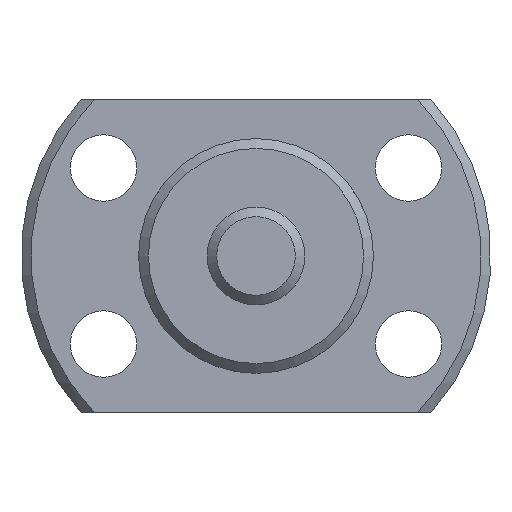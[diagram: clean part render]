
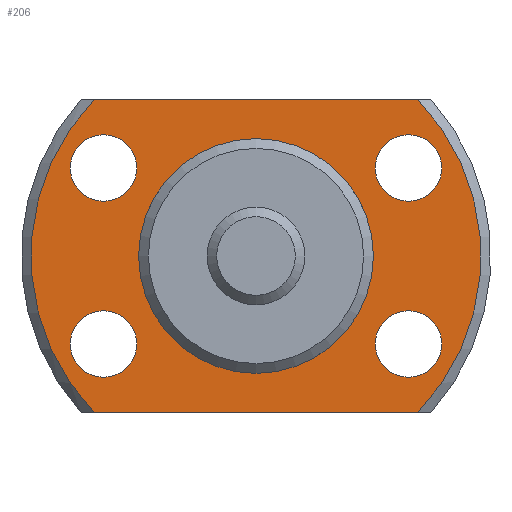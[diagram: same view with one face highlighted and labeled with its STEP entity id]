
A CAD part, left-side view. The second image highlights one B-rep face of the part: STEP entity #206.
In plain terms, the highlighted planar face has unit normal (-1, 0, 0).
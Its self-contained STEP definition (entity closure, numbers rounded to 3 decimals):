
#206 = ADVANCED_FACE( '', ( #311, #312, #313, #314, #315, #316 ), #317, .F. );
#311 = FACE_OUTER_BOUND( '', #440, .T. );
#312 = FACE_BOUND( '', #441, .T. );
#313 = FACE_BOUND( '', #442, .T. );
#314 = FACE_BOUND( '', #443, .T. );
#315 = FACE_BOUND( '', #444, .T. );
#316 = FACE_BOUND( '', #445, .T. );
#317 = PLANE( '', #446 );
#440 = EDGE_LOOP( '', ( #719, #720, #721, #722 ) );
#441 = EDGE_LOOP( '', ( #723 ) );
#442 = EDGE_LOOP( '', ( #724 ) );
#443 = EDGE_LOOP( '', ( #725 ) );
#444 = EDGE_LOOP( '', ( #726 ) );
#445 = EDGE_LOOP( '', ( #727 ) );
#446 = AXIS2_PLACEMENT_3D( '', #728, #729, #730 );
#719 = ORIENTED_EDGE( '', *, *, #859, .F. );
#720 = ORIENTED_EDGE( '', *, *, #879, .F. );
#721 = ORIENTED_EDGE( '', *, *, #871, .F. );
#722 = ORIENTED_EDGE( '', *, *, #857, .F. );
#723 = ORIENTED_EDGE( '', *, *, #880, .T. );
#724 = ORIENTED_EDGE( '', *, *, #881, .T. );
#725 = ORIENTED_EDGE( '', *, *, #882, .T. );
#726 = ORIENTED_EDGE( '', *, *, #883, .T. );
#727 = ORIENTED_EDGE( '', *, *, #870, .T. );
#728 = CARTESIAN_POINT( '', ( 18., 5.75, 0. ) );
#729 = DIRECTION( '', ( 1., 0., 0. ) );
#730 = DIRECTION( '', ( 0., 0., -1. ) );
#857 = EDGE_CURVE( '', #994, #996, #997, .T. );
#859 = EDGE_CURVE( '', #999, #994, #1000, .T. );
#870 = EDGE_CURVE( '', #1014, #1014, #1015, .T. );
#871 = EDGE_CURVE( '', #996, #1016, #1017, .T. );
#879 = EDGE_CURVE( '', #1016, #999, #1029, .T. );
#880 = EDGE_CURVE( '', #1030, #1030, #1031, .T. );
#881 = EDGE_CURVE( '', #1032, #1032, #1033, .T. );
#882 = EDGE_CURVE( '', #1034, #1034, #1035, .T. );
#883 = EDGE_CURVE( '', #1036, #1036, #1037, .T. );
#994 = VERTEX_POINT( '', #1293 );
#996 = VERTEX_POINT( '', #1298 );
#997 = LINE( '', #1299, #1300 );
#999 = VERTEX_POINT( '', #1305 );
#1000 = CIRCLE( '', #1306, 11.5 );
#1014 = VERTEX_POINT( '', #1323 );
#1015 = CIRCLE( '', #1324, 5.75 );
#1016 = VERTEX_POINT( '', #1325 );
#1017 = CIRCLE( '', #1326, 11.5 );
#1029 = LINE( '', #1345, #1346 );
#1030 = VERTEX_POINT( '', #1347 );
#1031 = CIRCLE( '', #1348, 1.7 );
#1032 = VERTEX_POINT( '', #1349 );
#1033 = CIRCLE( '', #1350, 1.7 );
#1034 = VERTEX_POINT( '', #1351 );
#1035 = CIRCLE( '', #1352, 1.7 );
#1036 = VERTEX_POINT( '', #1353 );
#1037 = CIRCLE( '', #1354, 1.7 );
#1293 = CARTESIAN_POINT( '', ( 18., 8.261, 8. ) );
#1298 = CARTESIAN_POINT( '', ( 18., -8.261, 8. ) );
#1299 = CARTESIAN_POINT( '', ( 18., 17., 8. ) );
#1300 = VECTOR( '', #1455, 1000. );
#1305 = CARTESIAN_POINT( '', ( 18., 8.261, -8. ) );
#1306 = AXIS2_PLACEMENT_3D( '', #1456, #1457, #1458 );
#1323 = CARTESIAN_POINT( '', ( 18., 0., -5.75 ) );
#1324 = AXIS2_PLACEMENT_3D( '', #1486, #1487, #1488 );
#1325 = CARTESIAN_POINT( '', ( 18., -8.261, -8. ) );
#1326 = AXIS2_PLACEMENT_3D( '', #1489, #1490, #1491 );
#1345 = CARTESIAN_POINT( '', ( 18., -17., -8. ) );
#1346 = VECTOR( '', #1505, 1000. );
#1347 = CARTESIAN_POINT( '', ( 18., -7.794, -6.2 ) );
#1348 = AXIS2_PLACEMENT_3D( '', #1506, #1507, #1508 );
#1349 = CARTESIAN_POINT( '', ( 18., -7.794, 2.8 ) );
#1350 = AXIS2_PLACEMENT_3D( '', #1509, #1510, #1511 );
#1351 = CARTESIAN_POINT( '', ( 18., 7.794, -6.2 ) );
#1352 = AXIS2_PLACEMENT_3D( '', #1512, #1513, #1514 );
#1353 = CARTESIAN_POINT( '', ( 18., 7.794, 2.8 ) );
#1354 = AXIS2_PLACEMENT_3D( '', #1515, #1516, #1517 );
#1455 = DIRECTION( '', ( 0., -1., 0. ) );
#1456 = CARTESIAN_POINT( '', ( 18., 0., 0. ) );
#1457 = DIRECTION( '', ( 1., 0., 0. ) );
#1458 = DIRECTION( '', ( 0., 0., -1. ) );
#1486 = CARTESIAN_POINT( '', ( 18., 0., 0. ) );
#1487 = DIRECTION( '', ( 1., 0., 0. ) );
#1488 = DIRECTION( '', ( 0., 0., -1. ) );
#1489 = CARTESIAN_POINT( '', ( 18., 0., 0. ) );
#1490 = DIRECTION( '', ( 1., 0., 0. ) );
#1491 = DIRECTION( '', ( 0., 0., -1. ) );
#1505 = DIRECTION( '', ( 0., 1., 0. ) );
#1506 = CARTESIAN_POINT( '', ( 18., -7.794, -4.5 ) );
#1507 = DIRECTION( '', ( 1., 0., 0. ) );
#1508 = DIRECTION( '', ( 0., 0., -1. ) );
#1509 = CARTESIAN_POINT( '', ( 18., -7.794, 4.5 ) );
#1510 = DIRECTION( '', ( 1., 0., 0. ) );
#1511 = DIRECTION( '', ( 0., 0., -1. ) );
#1512 = CARTESIAN_POINT( '', ( 18., 7.794, -4.5 ) );
#1513 = DIRECTION( '', ( 1., 0., 0. ) );
#1514 = DIRECTION( '', ( 0., 0., -1. ) );
#1515 = CARTESIAN_POINT( '', ( 18., 7.794, 4.5 ) );
#1516 = DIRECTION( '', ( 1., 0., 0. ) );
#1517 = DIRECTION( '', ( 0., 0., -1. ) );
